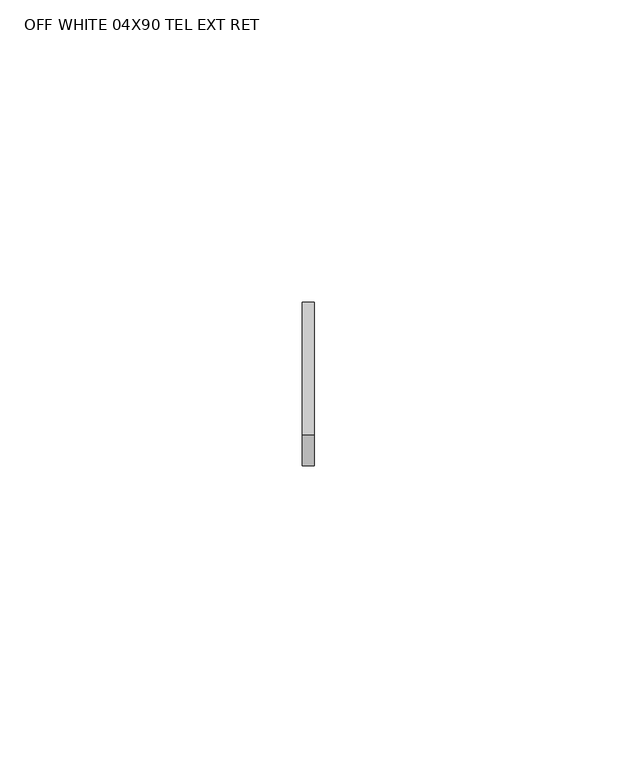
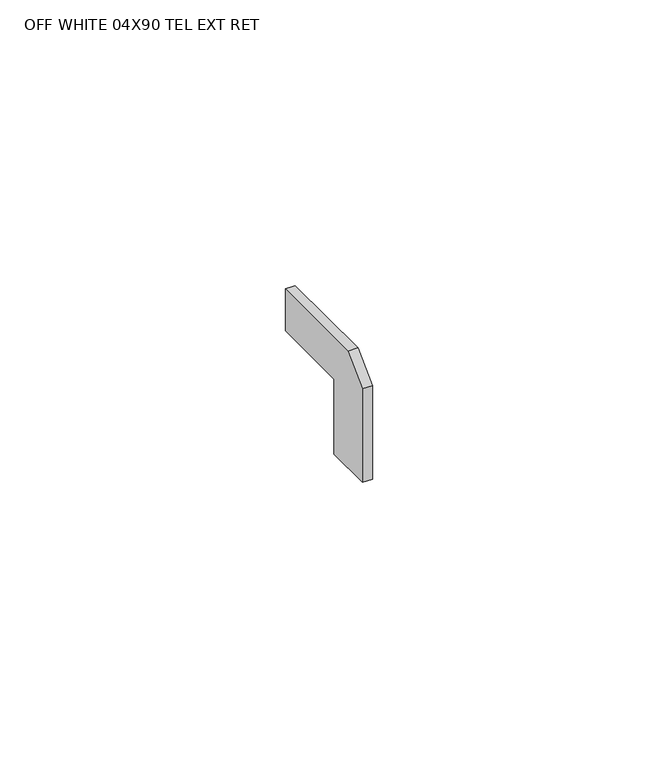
"""IFC4 building model written with IfcOpenShell, lengths in millimetres: proxy geometry, PORTOBELLO - BORDA MINI KALKS OFF WHITE 04X90 TEL EXT RET : OFF WHITE 04X90 TEL EXT RET."""

from ifc_helpers import new_model, si_unit, frame, origin, place, context, project, spatial, polyline, outline, extrude, source, transform, mapped, element, save


def off_white_04x90_tel_ext_ret_a41c1965(model_context):
    return source(origin(), model_context, "Body", "SweptSolid", [
        extrude(outline(polyline([(17.0, 0.0), (17.0, -9.0), (0.0, -9.0), (0.0, -25.0), (-10.0, -25.0), (-10.0, -5.0), (-5.0, 0.0), (17.0, 0.0)])), frame((898.0, 0.0, 0.0), z_axis=(1.0, 0.0, 0.0), x_axis=(0.0, 1.0, 0.0)), (0.0, 0.0, 1.0), 2.0),
    ])


if __name__ == "__main__":
    model = new_model("IFC4")
    model_context = context("Model", 3, world=origin())
    ifc_project = project(units=[si_unit("LENGTHUNIT", "METRE", prefix="MILLI")], contexts=[model_context])
    site = spatial("IfcSite", under=ifc_project)
    building = spatial("IfcBuilding", under=site)
    placement = place(None, origin())
    off_white_04x90_tel_ext_ret_shape = off_white_04x90_tel_ext_ret_a41c1965(model_context)
    element("IfcBuildingElementProxy", 1, Name="PORTOBELLO - BORDA MINI KALKS OFF WHITE 04X90 TEL EXT RET : OFF WHITE 04X90 TEL EXT RET", ObjectType="PORTOBELLO - BORDA MINI KALKS OFF WHITE 04X90 TEL EXT RET : OFF WHITE 04X90 TEL EXT RET", at=placement, inside=building, context=model_context, shape_type="MappedRepresentation", body=[
        mapped(off_white_04x90_tel_ext_ret_shape, transform((0.0, 0.0, 0.0), x_axis=(1.0, 0.0, 0.0), y_axis=(0.0, 1.0, 0.0), z_axis=(0.0, 0.0, 1.0))),
    ])
    save(model, "model.ifc")
